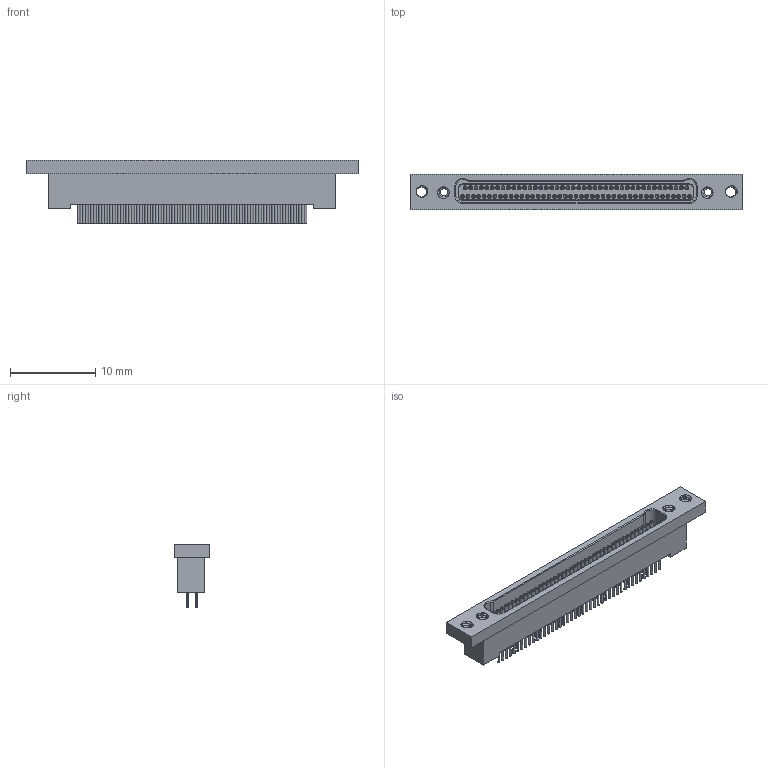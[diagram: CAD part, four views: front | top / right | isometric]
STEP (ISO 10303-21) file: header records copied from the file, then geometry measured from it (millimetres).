
FILE_DESCRIPTION (( 'STEP AP214' ), '1' );
FILE_NAME ('A29900-085 REV C.STEP', '2021-02-26T16:57:46', ( '' ), ( '' ), 'SwSTEP 2.0', 'SolidWorks 2019', '' );
FILE_SCHEMA (( 'AUTOMOTIVE_DESIGN' ));
Length unit declared in the file: inch
Products named in the file (1): A29900-085 REV C
Bounding box: 38.99 x 4.2 x 7.49 mm (x, y, z)
Volume: 451.1 mm3; surface area: 1786.4 mm2
Topology: 1 solids, 4 shells, 1167 faces, 2727 edges, 1669 vertices
Faces by surface type: cylinder 588, plane 331, cone 188, bspline 60
Entity records: 54224 total; most frequent: CARTESIAN_POINT 12970, DIRECTION 5617, ORIENTED_EDGE 5114, EDGE_CURVE 2557, AXIS2_PLACEMENT_3D 2204, VERTEX_POINT 1669, EDGE_LOOP 1446, LINE 1209
